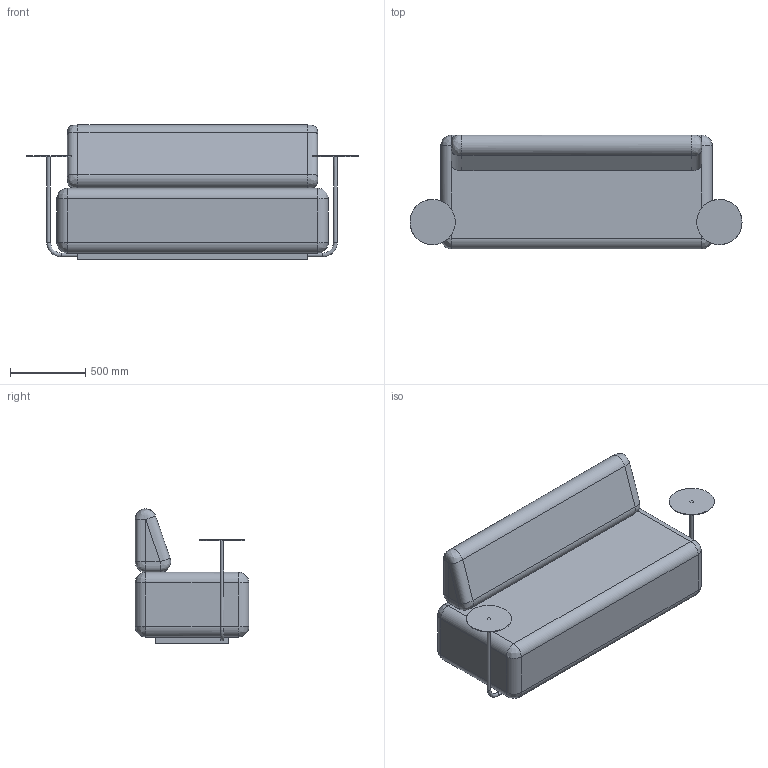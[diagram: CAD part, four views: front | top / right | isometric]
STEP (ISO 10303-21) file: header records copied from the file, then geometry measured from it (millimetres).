
FILE_DESCRIPTION(/* description */ (''),/* implementation_level */ '2;1');
FILE_NAME(/* name */ '220404_Zadkine_Two seaters 3D',/* time_stamp */ '2022-04-04T20:32:20+02:00',/* author */ (''),/* organization */ (''),/* preprocessor_version */ 'ST-DEVELOPER v16.5',/* originating_system */ 'Rhino 7.16',/* authorisation */ '');
FILE_SCHEMA (('CONFIG_CONTROL_DESIGN'));
Length unit declared in the file: millimetre
Products named in the file (1): Document
Bounding box: 2202.5 x 755 x 890.1 mm (x, y, z)
Volume: 729205329.3 mm3; surface area: 8648608.5 mm2
Topology: 7 solids, 7 shells, 68 faces, 143 edges, 88 vertices
Faces by surface type: bspline 68
Entity records: 4774 total; most frequent: CARTESIAN_POINT 3054, B_SPLINE_CURVE_WITH_KNOTS 313, ORIENTED_EDGE 248, PCURVE 248, DEFINITIONAL_REPRESENTATION 248, SURFACE_CURVE 124, EDGE_CURVE 124, VERTEX_POINT 70
